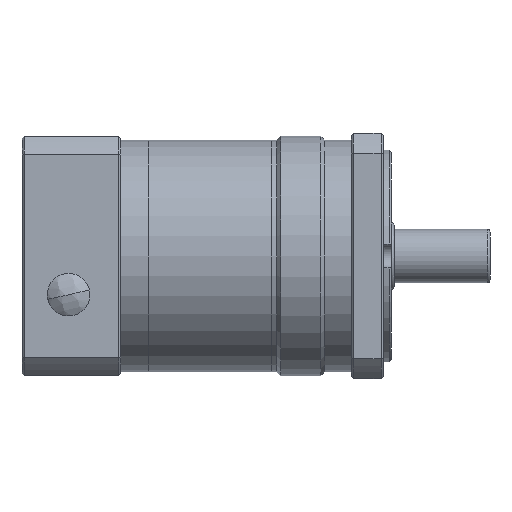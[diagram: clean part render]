
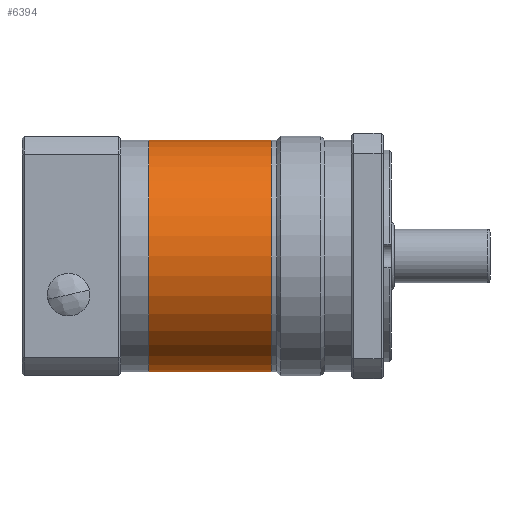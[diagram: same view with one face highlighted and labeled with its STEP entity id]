
A CAD part, front view. The second image highlights one B-rep face of the part: STEP entity #6394.
In plain terms, the highlighted cylindrical face has radius 43.5 mm (diameter 87 mm), a partial arc.
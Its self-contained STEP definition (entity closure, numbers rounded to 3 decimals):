
#331 = VECTOR ( 'NONE', #7378, 1000. ) ;
#404 = DIRECTION ( 'NONE',  ( 0., 0., 1. ) ) ;
#924 = DIRECTION ( 'NONE',  ( -1., 0., 0. ) ) ;
#1413 = CARTESIAN_POINT ( 'NONE',  ( 0., 0., 24.75 ) ) ;
#1424 = EDGE_CURVE ( 'NONE', #5707, #10496, #1656, .T. ) ;
#1591 = AXIS2_PLACEMENT_3D ( 'NONE', #1413, #8019, #10568 ) ;
#1609 = CARTESIAN_POINT ( 'NONE',  ( 0., 0., 24.75 ) ) ;
#1656 = LINE ( 'NONE', #10182, #3336 ) ;
#2075 = CIRCLE ( 'NONE', #1591, 43.5 ) ;
#2564 = EDGE_LOOP ( 'NONE', ( #8227, #10218, #3900, #4427 ) ) ;
#2863 = CARTESIAN_POINT ( 'NONE',  ( 0., 0., -21.25 ) ) ;
#3136 = CARTESIAN_POINT ( 'NONE',  ( 43.5, 0., -21.25 ) ) ;
#3308 = CARTESIAN_POINT ( 'NONE',  ( -43.5, 0., 24.75 ) ) ;
#3336 = VECTOR ( 'NONE', #9480, 1000. ) ;
#3416 = EDGE_CURVE ( 'NONE', #5707, #9998, #2075, .T. ) ;
#3833 = LINE ( 'NONE', #9183, #331 ) ;
#3900 = ORIENTED_EDGE ( 'NONE', *, *, #8717, .T. ) ;
#4177 = DIRECTION ( 'NONE',  ( 0., 0., -1. ) ) ;
#4264 = CARTESIAN_POINT ( 'NONE',  ( 43.5, 0., 24.75 ) ) ;
#4401 = FACE_OUTER_BOUND ( 'NONE', #2564, .T. ) ;
#4427 = ORIENTED_EDGE ( 'NONE', *, *, #9328, .T. ) ;
#4584 = AXIS2_PLACEMENT_3D ( 'NONE', #2863, #404, #9514 ) ;
#5036 = AXIS2_PLACEMENT_3D ( 'NONE', #1609, #4177, #924 ) ;
#5707 = VERTEX_POINT ( 'NONE', #4264 ) ;
#6172 = CARTESIAN_POINT ( 'NONE',  ( -43.5, 0., -21.25 ) ) ;
#6394 = ADVANCED_FACE ( 'NONE', ( #4401 ), #7347, .T. ) ;
#6557 = VERTEX_POINT ( 'NONE', #6172 ) ;
#7347 = CYLINDRICAL_SURFACE ( 'NONE', #5036, 43.5 ) ;
#7378 = DIRECTION ( 'NONE',  ( 0., 0., -1. ) ) ;
#8019 = DIRECTION ( 'NONE',  ( 0., 0., -1. ) ) ;
#8227 = ORIENTED_EDGE ( 'NONE', *, *, #1424, .F. ) ;
#8717 = EDGE_CURVE ( 'NONE', #9998, #6557, #3833, .T. ) ;
#9183 = CARTESIAN_POINT ( 'NONE',  ( -43.5, 0., 24.75 ) ) ;
#9328 = EDGE_CURVE ( 'NONE', #6557, #10496, #9688, .T. ) ;
#9480 = DIRECTION ( 'NONE',  ( 0., 0., -1. ) ) ;
#9514 = DIRECTION ( 'NONE',  ( -1., 0., 0. ) ) ;
#9688 = CIRCLE ( 'NONE', #4584, 43.5 ) ;
#9998 = VERTEX_POINT ( 'NONE', #3308 ) ;
#10182 = CARTESIAN_POINT ( 'NONE',  ( 43.5, 0., 24.75 ) ) ;
#10218 = ORIENTED_EDGE ( 'NONE', *, *, #3416, .T. ) ;
#10496 = VERTEX_POINT ( 'NONE', #3136 ) ;
#10568 = DIRECTION ( 'NONE',  ( -1., 0., 0. ) ) ;
